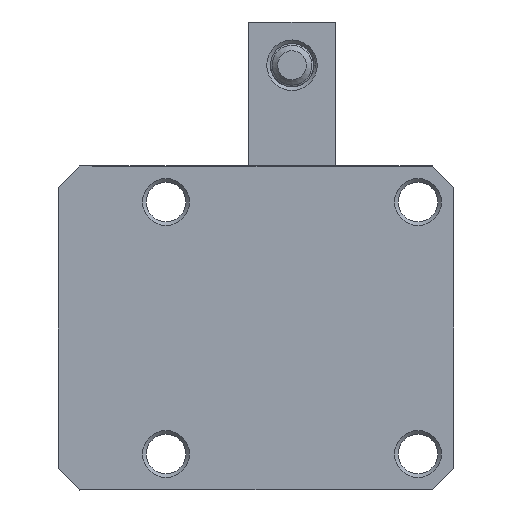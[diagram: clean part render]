
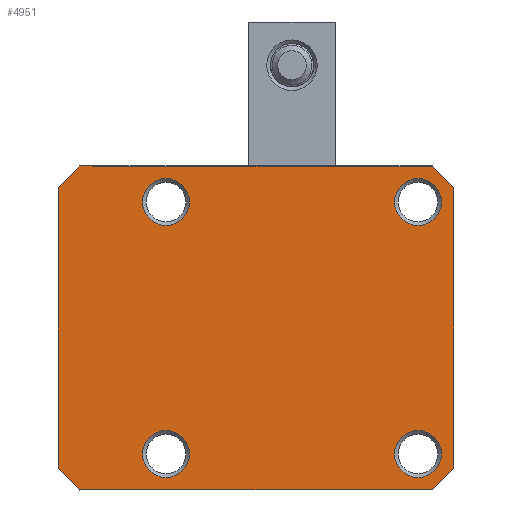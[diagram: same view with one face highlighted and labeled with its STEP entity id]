
A CAD part, front view. The second image highlights one B-rep face of the part: STEP entity #4951.
In plain terms, the highlighted planar face has unit normal (0, -1, 0).
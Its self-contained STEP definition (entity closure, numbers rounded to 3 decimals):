
#308=FACE_BOUND('',#812,.T.);
#309=FACE_BOUND('',#813,.T.);
#310=FACE_BOUND('',#814,.T.);
#311=FACE_BOUND('',#815,.T.);
#378=PLANE('',#5479);
#508=FACE_OUTER_BOUND('',#811,.T.);
#811=EDGE_LOOP('',(#3626,#3627,#3628,#3629,#3630,#3631,#3632,#3633));
#812=EDGE_LOOP('',(#3634));
#813=EDGE_LOOP('',(#3635));
#814=EDGE_LOOP('',(#3636));
#815=EDGE_LOOP('',(#3637));
#1158=LINE('',#8000,#1520);
#1165=LINE('',#8012,#1527);
#1174=LINE('',#8033,#1536);
#1182=LINE('',#8046,#1544);
#1183=LINE('',#8048,#1545);
#1191=LINE('',#8068,#1553);
#1198=LINE('',#8081,#1560);
#1199=LINE('',#8083,#1561);
#1520=VECTOR('',#6243,1000.);
#1527=VECTOR('',#6254,1000.);
#1536=VECTOR('',#6275,1000.);
#1544=VECTOR('',#6285,1000.);
#1545=VECTOR('',#6288,1000.);
#1553=VECTOR('',#6308,1000.);
#1560=VECTOR('',#6323,1000.);
#1561=VECTOR('',#6326,1000.);
#1828=CIRCLE('',#5408,3.25);
#1831=CIRCLE('',#5412,3.25);
#1834=CIRCLE('',#5416,3.25);
#1837=CIRCLE('',#5420,3.25);
#2138=VERTEX_POINT('',#7771);
#2141=VERTEX_POINT('',#7779);
#2144=VERTEX_POINT('',#7787);
#2147=VERTEX_POINT('',#7795);
#2192=VERTEX_POINT('',#7996);
#2194=VERTEX_POINT('',#7999);
#2197=VERTEX_POINT('',#8011);
#2202=VERTEX_POINT('',#8031);
#2203=VERTEX_POINT('',#8032);
#2207=VERTEX_POINT('',#8044);
#2211=VERTEX_POINT('',#8064);
#2213=VERTEX_POINT('',#8067);
#2634=EDGE_CURVE('',#2138,#2138,#1828,.T.);
#2638=EDGE_CURVE('',#2141,#2141,#1831,.T.);
#2642=EDGE_CURVE('',#2144,#2144,#1834,.T.);
#2646=EDGE_CURVE('',#2147,#2147,#1837,.T.);
#2711=EDGE_CURVE('',#2194,#2192,#1158,.T.);
#2718=EDGE_CURVE('',#2197,#2194,#1165,.T.);
#2728=EDGE_CURVE('',#2202,#2203,#1174,.T.);
#2736=EDGE_CURVE('',#2207,#2202,#1182,.T.);
#2737=EDGE_CURVE('',#2197,#2207,#1183,.T.);
#2746=EDGE_CURVE('',#2213,#2211,#1191,.T.);
#2753=EDGE_CURVE('',#2192,#2213,#1198,.T.);
#2754=EDGE_CURVE('',#2211,#2203,#1199,.T.);
#3626=ORIENTED_EDGE('',*,*,#2754,.T.);
#3627=ORIENTED_EDGE('',*,*,#2728,.F.);
#3628=ORIENTED_EDGE('',*,*,#2736,.F.);
#3629=ORIENTED_EDGE('',*,*,#2737,.F.);
#3630=ORIENTED_EDGE('',*,*,#2718,.T.);
#3631=ORIENTED_EDGE('',*,*,#2711,.T.);
#3632=ORIENTED_EDGE('',*,*,#2753,.T.);
#3633=ORIENTED_EDGE('',*,*,#2746,.T.);
#3634=ORIENTED_EDGE('',*,*,#2634,.T.);
#3635=ORIENTED_EDGE('',*,*,#2638,.T.);
#3636=ORIENTED_EDGE('',*,*,#2642,.T.);
#3637=ORIENTED_EDGE('',*,*,#2646,.T.);
#4951=ADVANCED_FACE('',(#508,#308,#309,#310,#311),#378,.T.);
#5408=AXIS2_PLACEMENT_3D('',#7773,#6097,#6098);
#5412=AXIS2_PLACEMENT_3D('',#7781,#6106,#6107);
#5416=AXIS2_PLACEMENT_3D('',#7789,#6115,#6116);
#5420=AXIS2_PLACEMENT_3D('',#7797,#6124,#6125);
#5479=AXIS2_PLACEMENT_3D('',#8082,#6324,#6325);
#6097=DIRECTION('center_axis',(0.,1.,0.));
#6098=DIRECTION('ref_axis',(0.,0.,-1.));
#6106=DIRECTION('center_axis',(0.,1.,0.));
#6107=DIRECTION('ref_axis',(0.,0.,-1.));
#6115=DIRECTION('center_axis',(0.,1.,0.));
#6116=DIRECTION('ref_axis',(0.,0.,-1.));
#6124=DIRECTION('center_axis',(0.,1.,0.));
#6125=DIRECTION('ref_axis',(0.,0.,-1.));
#6243=DIRECTION('',(1.,0.,0.));
#6254=DIRECTION('',(0.707,0.,-0.707));
#6275=DIRECTION('',(1.,0.,0.));
#6285=DIRECTION('',(0.707,0.,0.707));
#6288=DIRECTION('',(0.,0.,1.));
#6308=DIRECTION('',(0.,0.,1.));
#6323=DIRECTION('',(0.707,0.,0.707));
#6324=DIRECTION('center_axis',(0.,-1.,0.));
#6325=DIRECTION('ref_axis',(0.,0.,-1.));
#6326=DIRECTION('',(-0.707,0.,0.707));
#7771=CARTESIAN_POINT('',(480.63,64.989,-14.25));
#7773=CARTESIAN_POINT('Origin',(480.63,64.989,-17.5));
#7779=CARTESIAN_POINT('',(445.63,64.989,-14.25));
#7781=CARTESIAN_POINT('Origin',(445.63,64.989,-17.5));
#7787=CARTESIAN_POINT('',(445.63,64.989,20.75));
#7789=CARTESIAN_POINT('Origin',(445.63,64.989,17.5));
#7795=CARTESIAN_POINT('',(480.63,64.989,20.75));
#7797=CARTESIAN_POINT('Origin',(480.63,64.989,17.5));
#7996=CARTESIAN_POINT('',(482.63,64.989,-22.5));
#7999=CARTESIAN_POINT('',(433.63,64.989,-22.5));
#8000=CARTESIAN_POINT('',(458.13,64.989,-22.5));
#8011=CARTESIAN_POINT('',(430.63,64.989,-19.5));
#8012=CARTESIAN_POINT('',(432.13,64.989,-21.));
#8031=CARTESIAN_POINT('',(433.63,64.989,22.5));
#8032=CARTESIAN_POINT('',(482.63,64.989,22.5));
#8033=CARTESIAN_POINT('',(458.13,64.989,22.5));
#8044=CARTESIAN_POINT('',(430.63,64.989,19.5));
#8046=CARTESIAN_POINT('',(432.13,64.989,21.));
#8048=CARTESIAN_POINT('',(430.63,64.989,0.));
#8064=CARTESIAN_POINT('',(485.63,64.989,19.5));
#8067=CARTESIAN_POINT('',(485.63,64.989,-19.5));
#8068=CARTESIAN_POINT('',(485.63,64.989,0.));
#8081=CARTESIAN_POINT('',(484.13,64.989,-21.));
#8082=CARTESIAN_POINT('Origin',(430.63,64.989,22.5));
#8083=CARTESIAN_POINT('',(485.63,64.989,19.5));
